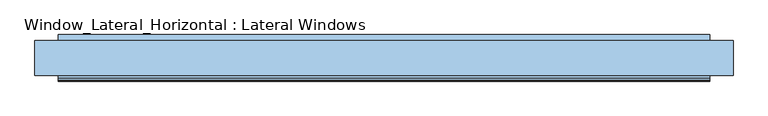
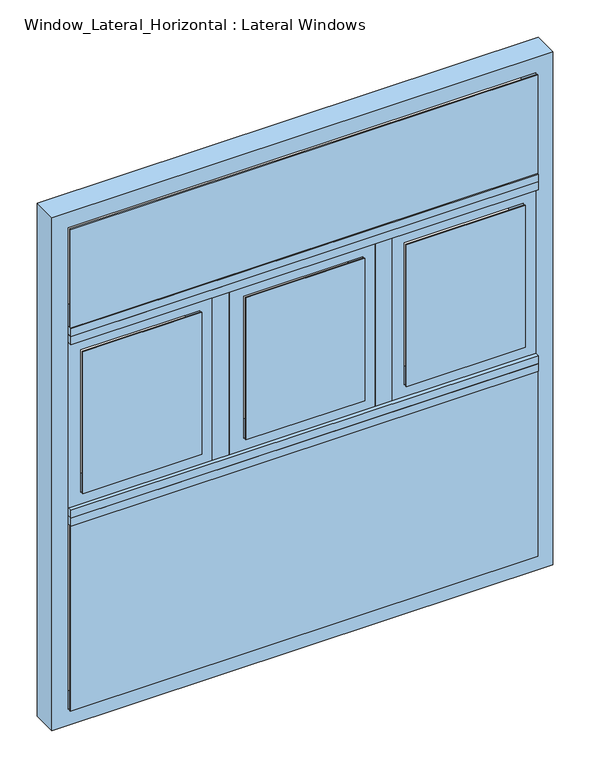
"""IFC4 building model written with IfcOpenShell, lengths in millimetres: window geometry, Window_Lateral_Horizontal : Lateral Windows."""

from ifc_helpers import new_model, si_unit, frame, origin, place, context, project, spatial, polyline, outline, extrude, source, transform, mapped, element, save


def window_lateral_horizontal_lateral_windows_7aeb5992(model_context):
    return source(origin(), model_context, "Body", "SweptSolid", [
        extrude(outline(polyline([(914.4, 1524.0), (4216.4, 1524.0), (4216.4, -1524.0), (914.4, -1524.0), (914.4, 1524.0)]), holes=[polyline([(4114.8, 1422.4), (1016.0, 1422.4), (1016.0, -1422.4), (4114.8, -1422.4), (4114.8, 1422.4)])]), frame((0.0, -76.2, 0.0), z_axis=(0.0, 1.0, 0.0), x_axis=(0.0, 0.0, 1.0)), (0.0, 0.0, 1.0), 152.4),
        extrude(outline(polyline([(-1422.4, 101.6), (1422.4, 101.6), (1422.4, -101.6), (-1422.4, -101.6), (-1422.4, 101.6)])), frame((0.0, 0.0, 3378.2), z_axis=(0.0, 0.0, 1.0), x_axis=(1.0, 0.0, 0.0)), (0.0, 0.0, 1.0), 50.8),
        extrude(outline(polyline([(-1422.4, 101.6), (1422.4, 101.6), (1422.4, -101.6), (-1422.4, -101.6), (-1422.4, 101.6)])), frame((0.0, 0.0, 2209.8), z_axis=(0.0, 0.0, 1.0), x_axis=(1.0, 0.0, 0.0)), (0.0, 0.0, 1.0), 50.8),
        extrude(outline(polyline([(-1422.4, 101.6), (1422.4, 101.6), (1422.4, -101.6), (-1422.4, -101.6), (-1422.4, 101.6)])), frame((0.0, 0.0, 3429.0), z_axis=(0.0, 0.0, 1.0), x_axis=(1.0, 0.0, 0.0)), (0.0, 0.0, 1.0), 50.8),
        extrude(outline(polyline([(-1422.4, 101.6), (1422.4, 101.6), (1422.4, -101.6), (-1422.4, -101.6), (-1422.4, 101.6)])), frame((0.0, 0.0, 2260.6), z_axis=(0.0, 0.0, 1.0), x_axis=(1.0, 0.0, 0.0)), (0.0, 0.0, 1.0), 50.8),
        extrude(outline(polyline([(546.3453728, 76.2), (546.3453728, -76.2), (444.7453728, -76.2), (444.7453728, 76.2), (546.3453728, 76.2)])), frame((0.0, 0.0, 2311.4), z_axis=(0.0, 0.0, 1.0), x_axis=(1.0, 0.0, 0.0)), (0.0, 0.0, 1.0), 1066.8),
        extrude(outline(polyline([(-444.7453728, 76.2), (-444.7453728, -76.2), (-546.3453728, -76.2), (-546.3453728, 76.2), (-444.7453728, 76.2)])), frame((0.0, 0.0, 2311.4), z_axis=(0.0, 0.0, 1.0), x_axis=(1.0, 0.0, 0.0)), (0.0, 0.0, 1.0), 1066.8),
        extrude(outline(polyline([(3378.2, 1422.4), (3378.2, 546.3453728), (2311.4, 546.3453728), (2311.4, 1422.4), (3378.2, 1422.4)]), holes=[polyline([(3302.0, 1346.2), (2387.6, 1346.2), (2387.6, 622.5453728), (3302.0, 622.5453728), (3302.0, 1346.2)])]), frame((0.0, -76.2, 0.0), z_axis=(0.0, 1.0, 0.0), x_axis=(0.0, 0.0, 1.0)), (0.0, 0.0, 1.0), 152.4),
        extrude(outline(polyline([(3378.2, 444.7453728), (3378.2, -444.7453728), (2311.4, -444.7453728), (2311.4, 444.7453728), (3378.2, 444.7453728)]), holes=[polyline([(3302.0, 368.5453728), (2387.6, 368.5453728), (2387.6, -355.1092545), (3302.0, -355.1092545), (3302.0, 368.5453728)])]), frame((0.0, -76.2, 0.0), z_axis=(0.0, 1.0, 0.0), x_axis=(0.0, 0.0, 1.0)), (0.0, 0.0, 1.0), 152.4),
        extrude(outline(polyline([(3378.2, -546.3453728), (3378.2, -1422.4), (2311.4, -1422.4), (2311.4, -546.3453728), (3378.2, -546.3453728)]), holes=[polyline([(3302.0, -622.5453728), (2387.6, -622.5453728), (2387.6, -1346.2), (3302.0, -1346.2), (3302.0, -622.5453728)])]), frame((0.0, -76.2, 0.0), z_axis=(0.0, 1.0, 0.0), x_axis=(0.0, 0.0, 1.0)), (0.0, 0.0, 1.0), 152.4),
        extrude(outline(polyline([(1422.4, -95.25), (-1422.4, -95.25), (-1422.4, -88.9), (1422.4, -88.9), (1422.4, -95.25)])), frame((0.0, 0.0, 3479.8), z_axis=(0.0, 0.0, 1.0), x_axis=(1.0, 0.0, 0.0)), (0.0, 0.0, 1.0), 635.0),
        extrude(outline(polyline([(-622.5453728, -95.25), (-1346.2, -95.25), (-1346.2, -88.9), (-622.5453728, -88.9), (-622.5453728, -95.25)])), frame((0.0, 0.0, 2387.6), z_axis=(0.0, 0.0, 1.0), x_axis=(1.0, 0.0, 0.0)), (0.0, 0.0, 1.0), 914.4),
        extrude(outline(polyline([(368.5453728, -95.25), (-355.1092545, -95.25), (-355.1092545, -88.9), (368.5453728, -88.9), (368.5453728, -95.25)])), frame((0.0, 0.0, 2387.6), z_axis=(0.0, 0.0, 1.0), x_axis=(1.0, 0.0, 0.0)), (0.0, 0.0, 1.0), 914.4),
        extrude(outline(polyline([(1346.2, -95.25), (622.5453728, -95.25), (622.5453728, -88.9), (1346.2, -88.9), (1346.2, -95.25)])), frame((0.0, 0.0, 2387.6), z_axis=(0.0, 0.0, 1.0), x_axis=(1.0, 0.0, 0.0)), (0.0, 0.0, 1.0), 914.4),
        extrude(outline(polyline([(1422.4, -95.25), (-1422.4, -95.25), (-1422.4, -88.9), (1422.4, -88.9), (1422.4, -95.25)])), frame((0.0, 0.0, 1016.0), z_axis=(0.0, 0.0, 1.0), x_axis=(1.0, 0.0, 0.0)), (0.0, 0.0, 1.0), 1193.8),
    ])


if __name__ == "__main__":
    model = new_model("IFC4")
    model_context = context("Model", 3, world=origin())
    ifc_project = project(units=[si_unit("LENGTHUNIT", "METRE", prefix="MILLI")], contexts=[model_context])
    site = spatial("IfcSite", under=ifc_project)
    building = spatial("IfcBuilding", under=site)
    placement = place(None, origin())
    window_lateral_horizontal_lateral_windows_shape = window_lateral_horizontal_lateral_windows_7aeb5992(model_context)
    element("IfcWindow", 1, ObjectType="Window_Lateral_Horizontal : Lateral Windows", at=placement, inside=building, context=model_context, shape_type="MappedRepresentation", body=[
        mapped(window_lateral_horizontal_lateral_windows_shape, transform((0.0, 0.0, 0.0), x_axis=(1.0, 0.0, 0.0), y_axis=(0.0, 1.0, 0.0), z_axis=(0.0, 0.0, 1.0))),
    ])
    save(model, "model.ifc")
